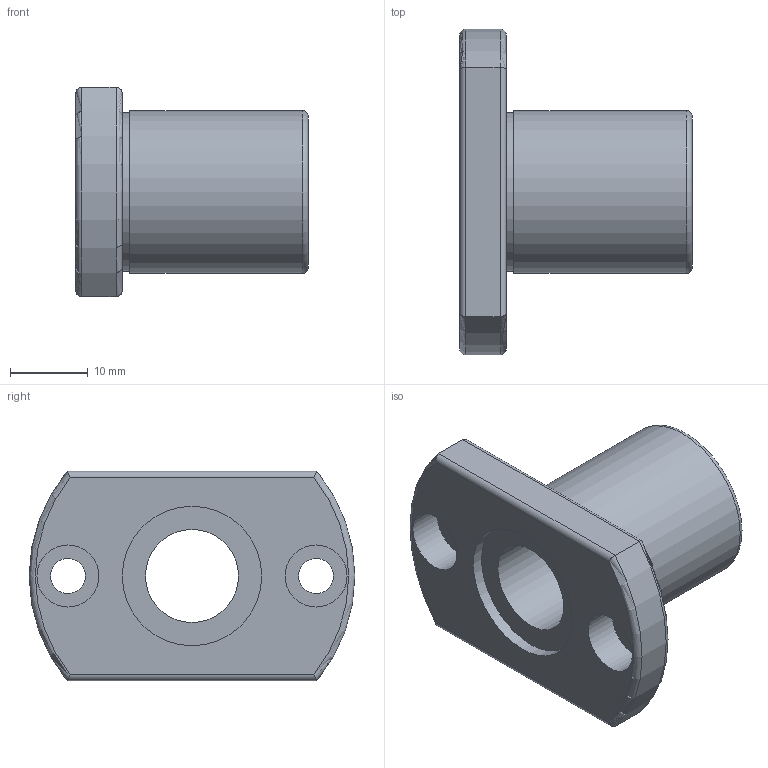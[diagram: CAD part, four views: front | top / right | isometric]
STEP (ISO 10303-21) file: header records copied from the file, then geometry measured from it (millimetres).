
FILE_DESCRIPTION( ( 'Unknown' ), '1' );
FILE_NAME( 'D:/累诀/己绕皋墨飘肺葱胶/11-04-06_档搁累己/01_府聪绢何教/LMH/LMH 12.stp', 'Unknown', ( 'Unknown' ), ( 'Unknown' ), 'PSStep 11.0', 'Unknown', ' ' );
FILE_SCHEMA( ( 'AUTOMOTIVE_DESIGN { 1 0 10303 214 1 1 1 1 }' ) );
Length unit declared in the file: millimetre
Products named in the file (1): 1
Bounding box: 30 x 42 x 27 mm (x, y, z)
Volume: 10243.8 mm3; surface area: 5514.6 mm2
Topology: 1 solids, 1 shells, 30 faces, 61 edges, 39 vertices
Faces by surface type: cylinder 15, plane 10, torus 5
Full cylindrical faces by diameter (mm): 4.5 x2, 8 x2, 12 x1, 17.972 x2, 20.4 x1, 21 x1
Entity records: 1014 total; most frequent: CARTESIAN_POINT 169, DIRECTION 128, ORIENTED_EDGE 94, AXIS2_PLACEMENT_3D 58, EDGE_LOOP 52, EDGE_CURVE 47, FACE_OUTER_BOUND 40, VERTEX_POINT 35
